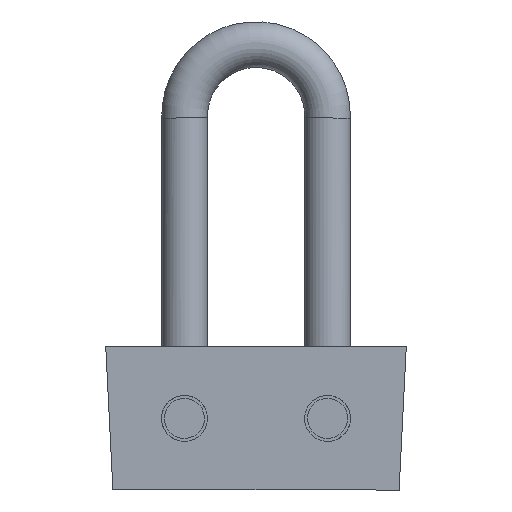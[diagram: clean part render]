
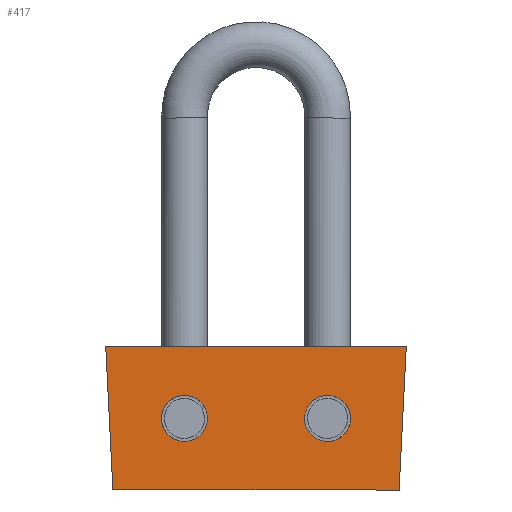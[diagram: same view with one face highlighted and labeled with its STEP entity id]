
A CAD part, front view. The second image highlights one B-rep face of the part: STEP entity #417.
In plain terms, the highlighted planar face has unit normal (0, -1, 0) as drawn and (0, 0, 1) by its records, which use the part's own axes.
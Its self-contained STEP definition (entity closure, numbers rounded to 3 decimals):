
#67=FACE_BOUND('',#146,.T.);
#68=FACE_BOUND('',#147,.T.);
#87=CIRCLE('',#532,8.);
#88=CIRCLE('',#533,8.);
#115=FACE_OUTER_BOUND('',#145,.T.);
#145=EDGE_LOOP('',(#319,#320,#321,#322));
#146=EDGE_LOOP('',(#323));
#147=EDGE_LOOP('',(#324));
#193=LINE('',#756,#205);
#198=LINE('',#766,#210);
#200=LINE('',#770,#212);
#202=LINE('',#773,#214);
#205=VECTOR('',#603,10.);
#210=VECTOR('',#612,10.);
#212=VECTOR('',#616,10.);
#214=VECTOR('',#620,10.);
#217=VERTEX_POINT('',#753);
#218=VERTEX_POINT('',#755);
#221=VERTEX_POINT('',#765);
#222=VERTEX_POINT('',#769);
#223=VERTEX_POINT('',#774);
#224=VERTEX_POINT('',#776);
#257=EDGE_CURVE('',#218,#217,#193,.T.);
#262=EDGE_CURVE('',#218,#221,#198,.T.);
#264=EDGE_CURVE('',#222,#221,#200,.T.);
#266=EDGE_CURVE('',#222,#217,#202,.T.);
#267=EDGE_CURVE('',#223,#223,#87,.T.);
#268=EDGE_CURVE('',#224,#224,#88,.T.);
#319=ORIENTED_EDGE('',*,*,#257,.T.);
#320=ORIENTED_EDGE('',*,*,#266,.F.);
#321=ORIENTED_EDGE('',*,*,#264,.T.);
#322=ORIENTED_EDGE('',*,*,#262,.F.);
#323=ORIENTED_EDGE('',*,*,#267,.T.);
#324=ORIENTED_EDGE('',*,*,#268,.T.);
#403=PLANE('',#531);
#417=ADVANCED_FACE('',(#115,#67,#68),#403,.T.);
#531=AXIS2_PLACEMENT_3D('',#772,#618,#619);
#532=AXIS2_PLACEMENT_3D('',#775,#621,#622);
#533=AXIS2_PLACEMENT_3D('',#777,#623,#624);
#603=DIRECTION('',(-0.999,0.05,0.));
#612=DIRECTION('',(0.,-1.,0.));
#616=DIRECTION('',(0.999,0.05,0.));
#618=DIRECTION('center_axis',(0.,0.,1.));
#619=DIRECTION('ref_axis',(0.,-1.,0.));
#620=DIRECTION('',(0.,1.,0.));
#621=DIRECTION('center_axis',(0.,0.,-1.));
#622=DIRECTION('ref_axis',(-1.,0.,0.));
#623=DIRECTION('center_axis',(0.,0.,-1.));
#624=DIRECTION('ref_axis',(-1.,0.,0.));
#753=CARTESIAN_POINT('',(0.,105.,0.));
#755=CARTESIAN_POINT('',(50.,102.5,0.));
#756=CARTESIAN_POINT('',(0.,105.,0.));
#765=CARTESIAN_POINT('',(50.,2.5,0.));
#766=CARTESIAN_POINT('',(50.,0.,0.));
#769=CARTESIAN_POINT('',(0.,0.,0.));
#770=CARTESIAN_POINT('',(2.618,0.131,0.));
#772=CARTESIAN_POINT('Origin',(0.,105.,0.));
#773=CARTESIAN_POINT('',(0.,0.,0.));
#774=CARTESIAN_POINT('',(33.,77.5,0.));
#775=CARTESIAN_POINT('Origin',(25.,77.5,0.));
#776=CARTESIAN_POINT('',(33.,27.5,0.));
#777=CARTESIAN_POINT('Origin',(25.,27.5,0.));
